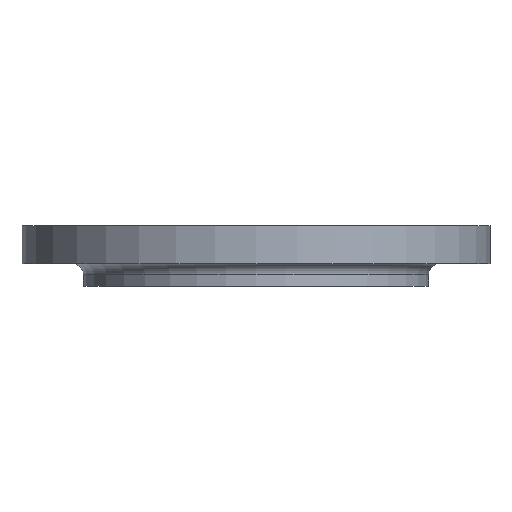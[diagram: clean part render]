
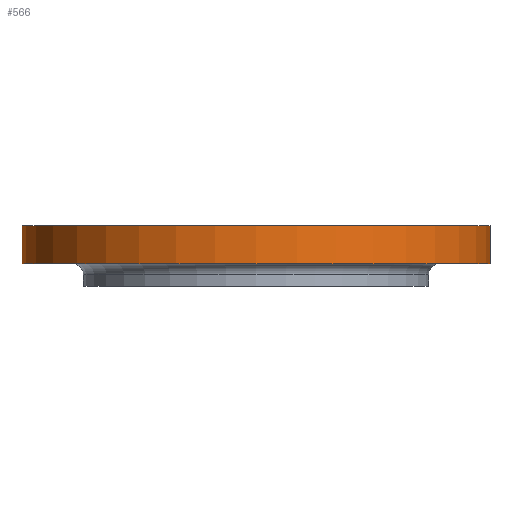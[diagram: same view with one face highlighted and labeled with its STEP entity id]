
A CAD part, front view. The second image highlights one B-rep face of the part: STEP entity #566.
In plain terms, the highlighted cylindrical face has radius 257.5 mm (diameter 515 mm), a partial arc.
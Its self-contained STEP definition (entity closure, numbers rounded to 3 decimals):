
#83 = CIRCLE ( 'NONE', #150, 257.5 ) ;
#150 = AXIS2_PLACEMENT_3D ( 'NONE', #537, #536, #535 ) ;
#206 = EDGE_CURVE ( 'NONE', #1358, #1362, #947, .T. ) ;
#264 = CARTESIAN_POINT ( 'NONE',  ( -257.5, 0., 0. ) ) ;
#267 = CARTESIAN_POINT ( 'NONE',  ( 257.5, 0., -42. ) ) ;
#268 = CARTESIAN_POINT ( 'NONE',  ( -257.5, 0., -42. ) ) ;
#395 = CARTESIAN_POINT ( 'NONE',  ( 257.5, 0., 0. ) ) ;
#396 = AXIS2_PLACEMENT_3D ( 'NONE', #700, #699, #698 ) ;
#535 = DIRECTION ( 'NONE',  ( 1., 0., 0. ) ) ;
#536 = DIRECTION ( 'NONE',  ( 0., 0., 1. ) ) ;
#537 = CARTESIAN_POINT ( 'NONE',  ( 0., 0., 0. ) ) ;
#566 = ADVANCED_FACE ( 'NONE', ( #784 ), #783, .T. ) ;
#654 = DIRECTION ( 'NONE',  ( 0., 0., 1. ) ) ;
#655 = CARTESIAN_POINT ( 'NONE',  ( 257.5, 0., -125. ) ) ;
#656 = LINE ( 'NONE', #655, #822 ) ;
#698 = DIRECTION ( 'NONE',  ( 1., 0., 0. ) ) ;
#699 = DIRECTION ( 'NONE',  ( 0., 0., 1. ) ) ;
#700 = CARTESIAN_POINT ( 'NONE',  ( 0., 0., -42. ) ) ;
#777 = CIRCLE ( 'NONE', #396, 257.5 ) ;
#780 = DIRECTION ( 'NONE',  ( 1., 0., 0. ) ) ;
#781 = DIRECTION ( 'NONE',  ( 0., 0., 1. ) ) ;
#782 = CARTESIAN_POINT ( 'NONE',  ( 0., 0., -125. ) ) ;
#783 = CYLINDRICAL_SURFACE ( 'NONE', #853, 257.5 ) ;
#784 = FACE_OUTER_BOUND ( 'NONE', #1454, .T. ) ;
#789 = EDGE_CURVE ( 'NONE', #1358, #1360, #777, .T. ) ;
#822 = VECTOR ( 'NONE', #654, 1000. ) ;
#853 = AXIS2_PLACEMENT_3D ( 'NONE', #782, #781, #780 ) ;
#876 = EDGE_CURVE ( 'NONE', #1360, #1257, #656, .T. ) ;
#921 = VECTOR ( 'NONE', #945, 1000. ) ;
#945 = DIRECTION ( 'NONE',  ( 0., 0., 1. ) ) ;
#946 = CARTESIAN_POINT ( 'NONE',  ( -257.5, 0., -125. ) ) ;
#947 = LINE ( 'NONE', #946, #921 ) ;
#1046 = EDGE_CURVE ( 'NONE', #1362, #1257, #83, .T. ) ;
#1210 = ORIENTED_EDGE ( 'NONE', *, *, #206, .F. ) ;
#1212 = ORIENTED_EDGE ( 'NONE', *, *, #789, .T. ) ;
#1213 = ORIENTED_EDGE ( 'NONE', *, *, #876, .T. ) ;
#1214 = ORIENTED_EDGE ( 'NONE', *, *, #1046, .F. ) ;
#1257 = VERTEX_POINT ( 'NONE', #395 ) ;
#1358 = VERTEX_POINT ( 'NONE', #268 ) ;
#1360 = VERTEX_POINT ( 'NONE', #267 ) ;
#1362 = VERTEX_POINT ( 'NONE', #264 ) ;
#1454 = EDGE_LOOP ( 'NONE', ( #1210, #1212, #1213, #1214 ) ) ;
